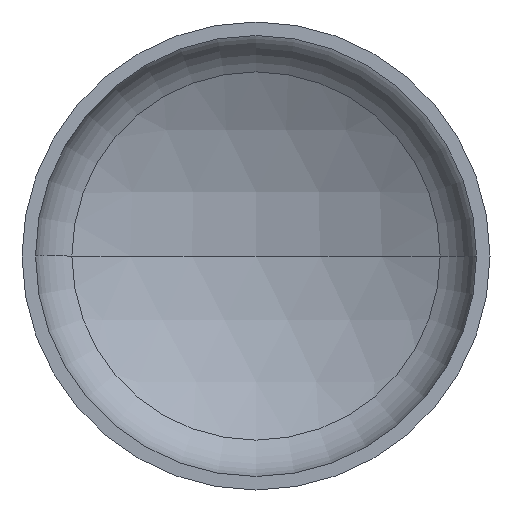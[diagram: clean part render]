
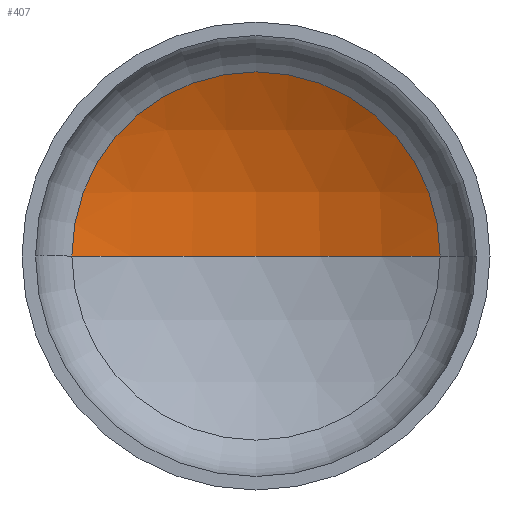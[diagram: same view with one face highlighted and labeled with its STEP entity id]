
A CAD part, front view. The second image highlights one B-rep face of the part: STEP entity #407.
In plain terms, the highlighted spherical face has radius 1440 mm.
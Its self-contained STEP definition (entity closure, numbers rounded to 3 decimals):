
#1 = ORIENTED_EDGE ( 'NONE', *, *, #351, .F. ) ;
#2 = VERTEX_POINT ( 'NONE', #278 ) ;
#12 = EDGE_LOOP ( 'NONE', ( #1, #69, #24 ) ) ;
#24 = ORIENTED_EDGE ( 'NONE', *, *, #344, .T. ) ;
#26 = AXIS2_PLACEMENT_3D ( 'NONE', #238, #168, #402 ) ;
#30 = AXIS2_PLACEMENT_3D ( 'NONE', #266, #67, #218 ) ;
#36 = VERTEX_POINT ( 'NONE', #292 ) ;
#37 = AXIS2_PLACEMENT_3D ( 'NONE', #191, #359, #363 ) ;
#67 = DIRECTION ( 'NONE',  ( 0., 0., -1. ) ) ;
#69 = ORIENTED_EDGE ( 'NONE', *, *, #348, .T. ) ;
#103 = VERTEX_POINT ( 'NONE', #256 ) ;
#168 = DIRECTION ( 'NONE',  ( 0., 0., 1. ) ) ;
#191 = CARTESIAN_POINT ( 'NONE',  ( 0., 359.438, 0. ) ) ;
#209 = CIRCLE ( 'NONE', #30, 1440. ) ;
#218 = DIRECTION ( 'NONE',  ( -1., 0., 0. ) ) ;
#238 = CARTESIAN_POINT ( 'NONE',  ( 0., -894.345, 0. ) ) ;
#253 = FACE_OUTER_BOUND ( 'NONE', #12, .T. ) ;
#256 = CARTESIAN_POINT ( 'NONE',  ( 0., 545.655, 0. ) ) ;
#263 = CIRCLE ( 'NONE', #26, 1440. ) ;
#266 = CARTESIAN_POINT ( 'NONE',  ( 0., -894.345, 0. ) ) ;
#271 = CARTESIAN_POINT ( 'NONE',  ( 0., -894.345, 0. ) ) ;
#278 = CARTESIAN_POINT ( 'NONE',  ( -708.258, 359.438, 0. ) ) ;
#292 = CARTESIAN_POINT ( 'NONE',  ( 708.258, 359.438, 0. ) ) ;
#344 = EDGE_CURVE ( 'NONE', #36, #2, #388, .T. ) ;
#348 = EDGE_CURVE ( 'NONE', #103, #36, #209, .T. ) ;
#351 = EDGE_CURVE ( 'NONE', #103, #2, #263, .T. ) ;
#359 = DIRECTION ( 'NONE',  ( 0., -1., 0. ) ) ;
#360 = AXIS2_PLACEMENT_3D ( 'NONE', #271, #389, #386 ) ;
#363 = DIRECTION ( 'NONE',  ( 1., 0., 0. ) ) ;
#366 = SPHERICAL_SURFACE ( 'NONE', #360, 1440. ) ;
#386 = DIRECTION ( 'NONE',  ( -1., 0., 0. ) ) ;
#388 = CIRCLE ( 'NONE', #37, 708.258 ) ;
#389 = DIRECTION ( 'NONE',  ( 0., 0., -1. ) ) ;
#402 = DIRECTION ( 'NONE',  ( 1., 0., 0. ) ) ;
#407 = ADVANCED_FACE ( 'NONE', ( #253 ), #366, .F. ) ;
